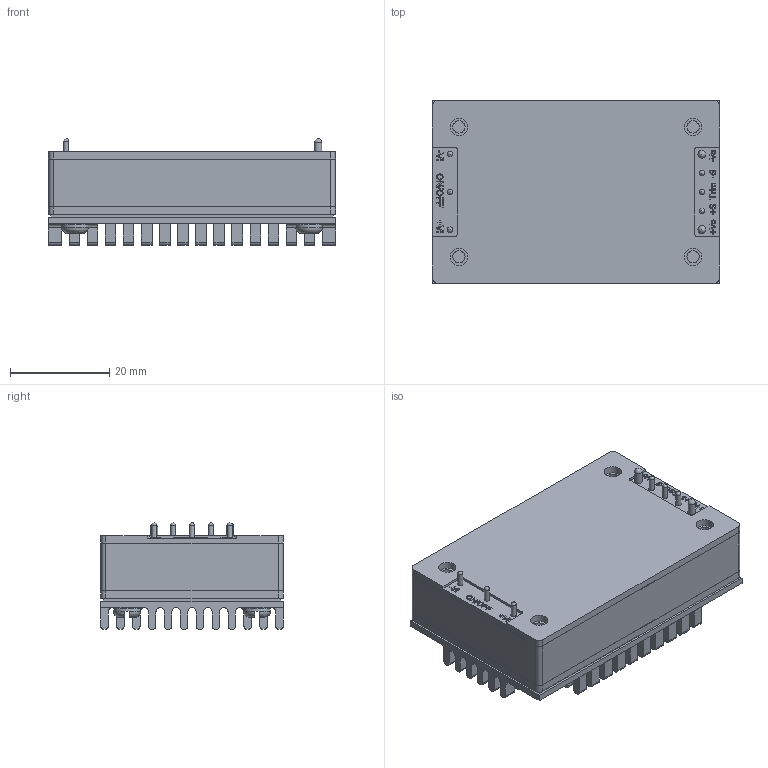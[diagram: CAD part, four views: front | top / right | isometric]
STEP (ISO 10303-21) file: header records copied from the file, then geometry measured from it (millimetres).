
FILE_DESCRIPTION((''),'2;1');
FILE_NAME('D:\A-本機磁碟(D)\型錄用 3D Model -STEP檔\MTQZ50+MTQZ75+HS.stp','2015-04-02T14:23:28',('COSMOS'),(''),'Autodesk Inventor 2008','Autodesk Inventor 2008','');
FILE_SCHEMA(('AUTOMOTIVE_DESIGN { 1 0 10303 214 1 1 1 1 }'));
Length unit declared in the file: millimetre
Products named in the file (8): MTQZ50+MTQZ75+HS; MTQZ50+MTQZ75; MTQZ-50+75 鋁擠型散熱片(086-HS-35)(0); MTQZ-50 導熱凝膠(091-300-56.9x35.8x0; M3x7L; M3x7L_MIR; M3x7L_MIR1; M3x7L_MIR_MIR
Assembly tree (7 placements, depth 2):
  MTQZ50+MTQZ75+HS
    MTQZ50+MTQZ75
    MTQZ-50+75 鋁擠型散熱片(086-HS-35)(0)
    MTQZ-50 導熱凝膠(091-300-56.9x35.8x0
    M3x7L
    M3x7L_MIR
    M3x7L_MIR1
    M3x7L_MIR_MIR
Bounding box: 57.9 x 36.8 x 21.5 mm (x, y, z)
Volume: 32940.8 mm3; surface area: 21118.6 mm2
Topology: 7 solids, 7 shells, 1653 faces, 4840 edges, 3260 vertices
Faces by surface type: plane 787, cylinder 688, bspline 164, sphere 8, torus 6
Full cylindrical faces by diameter (mm): 1 x6, 1.1 x6, 1.5 x2, 1.6 x2, 2.459 x4, 2.5 x30, 3.5 x16, 5.4 x2
Entity records: 63946 total; most frequent: CARTESIAN_POINT 20714, ORIENTED_EDGE 9408, DIRECTION 8572, EDGE_CURVE 4704, VERTEX_POINT 3240, VECTOR 2916, LINE 2916, AXIS2_PLACEMENT_3D 2828
